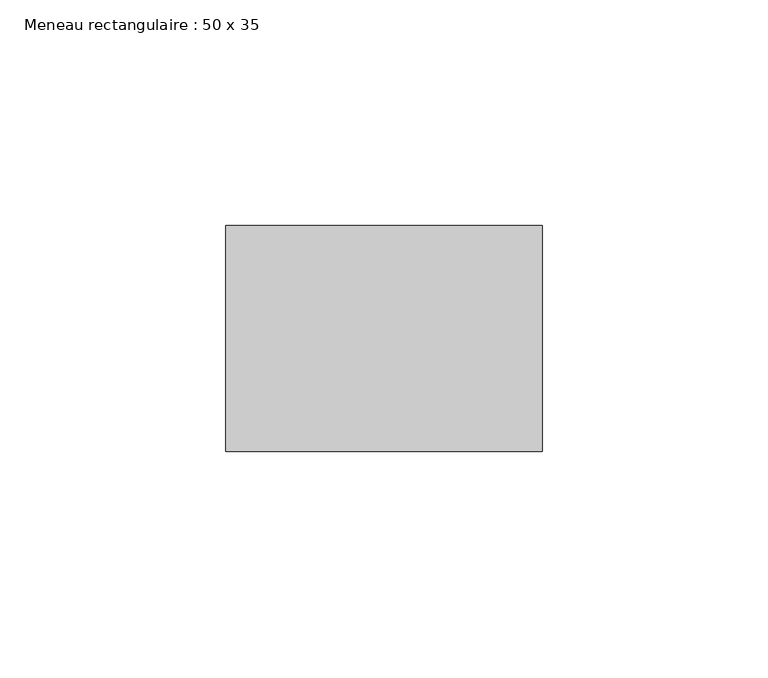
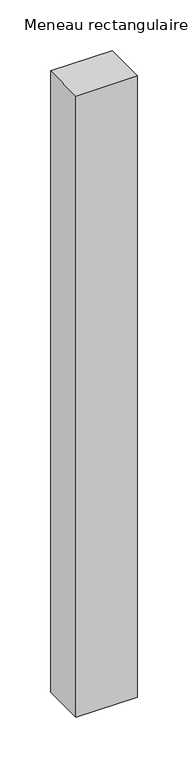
"""IFC4 building model written with IfcOpenShell, lengths in millimetres: member geometry, Meneau rectangulaire : 50 x 35."""

import ifcopenshell
import ifcopenshell.guid

model = None  # the IFC model being written
_history = None  # IfcOwnerHistory: only IFC2X3 demands one
_inside = {}  # id of a spatial element -> (the spatial element, [elements in it])
_under = {}  # id of a project, library or spatial element -> (it, [spatial elements below it])
_declared = {}  # id of a project -> (the project, [libraries it declares])
_typed = {}  # id of a type object -> (the type object, [elements of that type])
_made_of = {}  # id of a material, layer set ... -> (it, [elements and type objects made of it])


def new_model(schema):
    """Start an empty IFC model of exactly this schema.

    Asked for "IFC4X3", IfcOpenShell would pick the latest addendum, in which some entities
    have other attributes; the version numbers below select the first issue.
    IFC2X3 requires an IfcOwnerHistory on every rooted entity: one is made here for all.
    """
    global model, _history
    if schema == "IFC4X3":
        model = ifcopenshell.file(schema_version=(4, 3, 0, 0))
    else:
        model = ifcopenshell.file(schema=schema)
    _inside.clear()
    _under.clear()
    _declared.clear()
    _typed.clear()
    _made_of.clear()
    _history = None
    if model.schema == "IFC2X3":
        org = make("IfcOrganization", Name="unknown")
        user = make(
            "IfcPersonAndOrganization",
            ThePerson=make("IfcPerson", FamilyName="unknown"),
            TheOrganization=org,
        )
        app = make(
            "IfcApplication",
            ApplicationDeveloper=org,
            Version="unknown",
            ApplicationFullName="unknown",
            ApplicationIdentifier="unknown",
        )
        _history = make(
            "IfcOwnerHistory",
            OwningUser=user,
            OwningApplication=app,
            ChangeAction="ADDED",
            CreationDate=0,
        )
    return model


def make(cls, **values):
    """One entity of the class cls with the attributes given. An attribute that is None is left unset."""
    return model.create_entity(
        cls, **{name: value for name, value in values.items() if value is not None}
    )


def rooted(cls, **values):
    """An entity with a GlobalId (a new one), such as an element, a storey or a relation."""
    return make(cls, GlobalId=ifcopenshell.guid.new(), OwnerHistory=_history, **values)


def si_unit(unit_type, name, prefix=None):
    """IfcSIUnit, for example si_unit("LENGTHUNIT", "METRE", prefix="MILLI")."""
    return make("IfcSIUnit", UnitType=unit_type, Prefix=prefix, Name=name)


def assignment(units):
    """IfcUnitAssignment: the units of a project."""
    return None if units is None else make("IfcUnitAssignment", Units=units)


def point(xyz):
    """IfcCartesianPoint."""
    return None if xyz is None else make("IfcCartesianPoint", Coordinates=xyz)


def direction(xyz):
    """IfcDirection."""
    return None if xyz is None else make("IfcDirection", DirectionRatios=xyz)


def frame(location, z_axis=None, x_axis=None):
    """IfcAxis2Placement3D, a coordinate frame: its origin and axes. An axis left out is left unset."""
    return make(
        "IfcAxis2Placement3D",
        Location=point(location),
        Axis=direction(z_axis),
        RefDirection=direction(x_axis),
    )


def origin():
    """The frame at (0, 0, 0) with its axes left unset."""
    return frame((0.0, 0.0, 0.0))


def place(relative_to, where):
    """IfcLocalPlacement: puts the frame where relative to a parent placement (None: the world)."""
    return make(
        "IfcLocalPlacement", PlacementRelTo=relative_to, RelativePlacement=where
    )


def context(
    kind, dimensions, precision=None, world=None, true_north=None, identifier=None
):
    """IfcGeometricRepresentationContext, for example the 3D "Model" context."""
    return make(
        "IfcGeometricRepresentationContext",
        ContextIdentifier=identifier,
        ContextType=kind,
        CoordinateSpaceDimension=dimensions,
        Precision=precision,
        WorldCoordinateSystem=world,
        TrueNorth=true_north,
    )


def project(units=None, contexts=None):
    """IfcProject with its units and contexts."""
    return rooted(
        "IfcProject",
        Name="project",
        RepresentationContexts=contexts,
        UnitsInContext=assignment(units),
    )


def spatial(cls, under=None, at=None, **own):
    """A site, building, storey or space (cls), placed at a placement, below another one or the project."""
    s = rooted(cls, ObjectPlacement=at, **own)
    if under is not None:
        _under.setdefault(under.id(), (under, []))[1].append(s)
    return s


def polyline(points):
    """IfcPolyline through the points."""
    return make("IfcPolyline", Points=[point(p) for p in points])


def outline(outer, holes=None, kind="AREA"):
    """IfcArbitraryClosedProfileDef: a profile drawn as a closed curve; with holes, ...WithVoids."""
    if holes is None:
        return make("IfcArbitraryClosedProfileDef", ProfileType=kind, OuterCurve=outer)
    return make(
        "IfcArbitraryProfileDefWithVoids",
        ProfileType=kind,
        OuterCurve=outer,
        InnerCurves=holes,
    )


def extrude(swept, where, along, depth):
    """IfcExtrudedAreaSolid: the profile swept, set in the frame where, extruded along a direction by depth."""
    return make(
        "IfcExtrudedAreaSolid",
        SweptArea=swept,
        Position=where,
        ExtrudedDirection=direction(along),
        Depth=depth,
    )


def shape(context_of_items, identifier, shape_type, items):
    """IfcShapeRepresentation: the items that make up one representation, for example the "Body"."""
    return make(
        "IfcShapeRepresentation",
        ContextOfItems=context_of_items,
        RepresentationIdentifier=identifier,
        RepresentationType=shape_type,
        Items=items,
    )


def source(mapping_origin, context_of_items, identifier, shape_type, items):
    """IfcRepresentationMap: a shape defined once, which mapped items show again and again."""
    return make(
        "IfcRepresentationMap",
        MappingOrigin=mapping_origin,
        MappedRepresentation=shape(context_of_items, identifier, shape_type, items),
    )


def transform(
    local_origin,
    x_axis=None,
    y_axis=None,
    z_axis=None,
    scale=None,
    scale2=None,
    scale3=None,
    uniform=True,
):
    """IfcCartesianTransformationOperator3D, or its non-uniform kind. x_axis, y_axis, z_axis: its Axis1, 2, 3."""
    if uniform:
        return make(
            "IfcCartesianTransformationOperator3D",
            Axis1=direction(x_axis),
            Axis2=direction(y_axis),
            LocalOrigin=point(local_origin),
            Scale=scale,
            Axis3=direction(z_axis),
        )
    return make(
        "IfcCartesianTransformationOperator3DnonUniform",
        Axis1=direction(x_axis),
        Axis2=direction(y_axis),
        LocalOrigin=point(local_origin),
        Scale=scale,
        Axis3=direction(z_axis),
        Scale2=scale2,
        Scale3=scale3,
    )


def mapped(mapping_source, mapping_target):
    """IfcMappedItem: shows the shape of a source again, moved by a transform."""
    return make(
        "IfcMappedItem", MappingSource=mapping_source, MappingTarget=mapping_target
    )


def made_of(thing, what):
    """Note that an element or type object is made of a material, layer set ...; save() writes the relation."""
    if what is not None:
        _made_of.setdefault(what.id(), (what, []))[1].append(thing)
    return thing


def element(
    cls,
    number,
    at=None,
    inside=None,
    cuts=None,
    type_object=None,
    material=None,
    context=None,
    identifier="Body",
    shape_type=None,
    held_by="IfcProductDefinitionShape",
    body=None,
    shapes=None,
    **own,
):
    """One element of the class cls, such as IfcWall. Its Tag is "e" and its number.

    at: its placement. inside: the storey or other place that contains it. cuts: it is an
    opening in that element (IfcRelVoidsElement). A single representation is given by context,
    identifier, shape_type and body (its items); several are given by shapes. held_by: the class
    of the entity that holds the representations. save() writes the other relations.
    """
    e = rooted(cls, Tag="e%d" % number, ObjectPlacement=at, **own)
    if body is not None:
        shapes = [shape(context, identifier, shape_type, body)]
    if shapes is not None:
        e.Representation = make(held_by, Representations=shapes)
    if inside is not None:
        _inside.setdefault(inside.id(), (inside, []))[1].append(e)
    if cuts is not None:
        rooted(
            "IfcRelVoidsElement", RelatingBuildingElement=cuts, RelatedOpeningElement=e
        )
    if type_object is not None:
        _typed.setdefault(type_object.id(), (type_object, []))[1].append(e)
    return made_of(e, material)


def aggregate(whole, parts):
    """IfcRelAggregates: a whole, such as a stair, and the parts it consists of."""
    return rooted("IfcRelAggregates", RelatingObject=whole, RelatedObjects=parts)


def save(model, path):
    """Write the relations noted so far, then the file.

    IfcRelAggregates (storeys below a building ...), IfcRelContainedInSpatialStructure (elements
    in a storey), IfcRelDefinesByType, IfcRelAssociatesMaterial and IfcRelDeclares: one each for
    every whole, place, type object, material and project.
    """
    for whole, parts in _under.values():
        aggregate(whole, parts)
    for where, things in _inside.values():
        rooted(
            "IfcRelContainedInSpatialStructure",
            RelatedElements=things,
            RelatingStructure=where,
        )
    for kind, things in _typed.values():
        rooted("IfcRelDefinesByType", RelatedObjects=things, RelatingType=kind)
    for what, things in _made_of.values():
        rooted("IfcRelAssociatesMaterial", RelatedObjects=things, RelatingMaterial=what)
    for by, libraries in _declared.values():
        rooted("IfcRelDeclares", RelatingContext=by, RelatedDefinitions=libraries)
    model.write(path)


def meneau_rectangulaire_50_x_35_f2bf4a92(model_context):
    return source(origin(), model_context, "Body", "SweptSolid", [
        extrude(outline(polyline([(0.0, 0.0), (0.0, -50.0), (-70.0, -50.0), (-70.0, 0.0), (0.0, 0.0)])), frame((0.0, 0.0, -749.0), z_axis=(0.0, 0.0, 1.0), x_axis=(1.0, 0.0, 0.0)), (0.0, 0.0, 1.0), 749.0),
    ])


if __name__ == "__main__":
    model = new_model("IFC4")
    model_context = context("Model", 3, world=origin())
    ifc_project = project(units=[si_unit("LENGTHUNIT", "METRE", prefix="MILLI")], contexts=[model_context])
    site = spatial("IfcSite", under=ifc_project)
    building = spatial("IfcBuilding", under=site)
    placement = place(None, origin())
    meneau_rectangulaire_50_x_35_shape = meneau_rectangulaire_50_x_35_f2bf4a92(model_context)
    element("IfcMember", 1, ObjectType="Meneau rectangulaire : 50 x 35", at=placement, inside=building, context=model_context, shape_type="MappedRepresentation", body=[
        mapped(meneau_rectangulaire_50_x_35_shape, transform((0.0, 0.0, 0.0), x_axis=(1.0, 0.0, 0.0), y_axis=(0.0, 1.0, 0.0), z_axis=(0.0, 0.0, 1.0))),
    ])
    save(model, "model.ifc")
